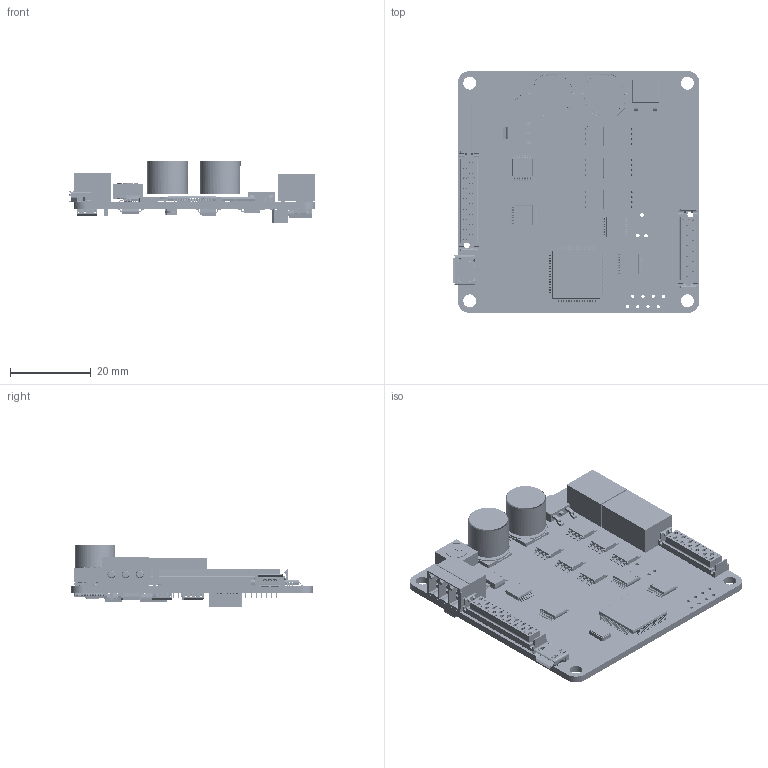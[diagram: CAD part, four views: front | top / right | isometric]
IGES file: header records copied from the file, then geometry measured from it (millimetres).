
Start section: SolidWorks IGES file using analytic representation for surfaces
Global section: file name: C:\Users\abolet\Desktop\EtherCAT 3Ds\i021-01H1_3Dnude.IGS; native system: SolidWorks 2016; preprocessor: SolidWorks 2016; author: abolet; date: 160412.121915; units: millimetre
Bounding box: 61.27 x 60 x 15.6 mm (x, y, z)
Surface area: 18646.1 mm2 (no closed solid volume)
Topology: 0 solids, 0 shells, 10469 faces, 63569 edges, 63377 vertices
Faces by surface type: bspline 8186, revolution 2283
